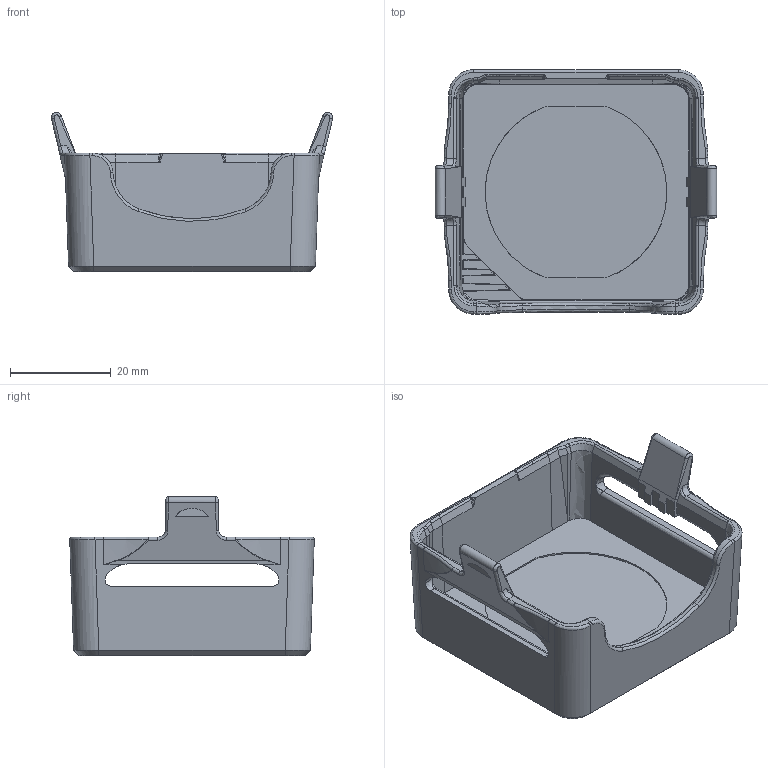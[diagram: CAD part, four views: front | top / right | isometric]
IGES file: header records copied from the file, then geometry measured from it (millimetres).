
Global section: file name: 153-13556_LPC VXX (VISOR 2 Funkenschutz); native system: Autodesk Inventor 2018; preprocessor: unknown; author: ss; date: 20190129.083300; units: millimetre
Bounding box: 55.76 x 48.46 x 31.51 mm (x, y, z)
Volume: 13340.3 mm3; surface area: 14370.1 mm2
Topology: 2 solids, 2 shells, 381 faces, 989 edges, 600 vertices
Faces by surface type: bspline 381
